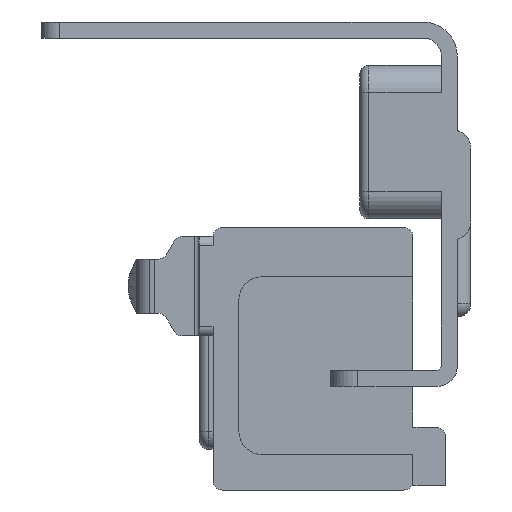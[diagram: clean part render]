
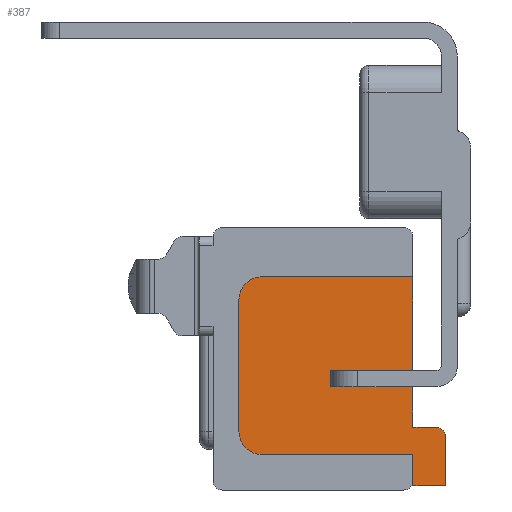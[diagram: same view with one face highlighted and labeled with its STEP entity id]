
A CAD part, left-side view. The second image highlights one B-rep face of the part: STEP entity #387.
In plain terms, the highlighted planar face has unit normal (-1, 0, 0).
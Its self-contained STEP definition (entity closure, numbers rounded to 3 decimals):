
#11 = CIRCLE ( 'NONE', #6969, 2.5 ) ;
#29 = EDGE_CURVE ( 'NONE', #3006, #235, #2060, .T. ) ;
#36 = VERTEX_POINT ( 'NONE', #1091 ) ;
#62 = CARTESIAN_POINT ( 'NONE',  ( -14.3, 4.9, -4.495 ) ) ;
#105 = VECTOR ( 'NONE', #2808, 1000. ) ;
#109 = ORIENTED_EDGE ( 'NONE', *, *, #875, .T. ) ;
#118 = VECTOR ( 'NONE', #5104, 1000. ) ;
#119 = CARTESIAN_POINT ( 'NONE',  ( -14.3, 4.9, -7.495 ) ) ;
#129 = CARTESIAN_POINT ( 'NONE',  ( -14.3, 4.9, -10.965 ) ) ;
#163 = LINE ( 'NONE', #129, #4337 ) ;
#177 = CARTESIAN_POINT ( 'NONE',  ( -14.3, 21.63, 9.635 ) ) ;
#235 = VERTEX_POINT ( 'NONE', #4454 ) ;
#265 = LINE ( 'NONE', #2714, #105 ) ;
#321 = CARTESIAN_POINT ( 'NONE',  ( -14.3, 14., 0. ) ) ;
#387 = ADVANCED_FACE ( 'NONE', ( #1247 ), #4284, .F. ) ;
#484 = DIRECTION ( 'NONE',  ( 1., 0., 0. ) ) ;
#487 = DIRECTION ( 'NONE',  ( 0., 0., -1. ) ) ;
#489 = EDGE_CURVE ( 'NONE', #1531, #6302, #11, .T. ) ;
#503 = DIRECTION ( 'NONE',  ( 0., 0., -1. ) ) ;
#719 = LINE ( 'NONE', #4909, #2018 ) ;
#856 = CARTESIAN_POINT ( 'NONE',  ( -14.3, 1.33, -4.495 ) ) ;
#875 = EDGE_CURVE ( 'NONE', #3006, #4551, #6411, .T. ) ;
#1014 = DIRECTION ( 'NONE',  ( 0., 1., 0. ) ) ;
#1091 = CARTESIAN_POINT ( 'NONE',  ( -14.3, 24.13, -4.995 ) ) ;
#1140 = CARTESIAN_POINT ( 'NONE',  ( -14.3, 21.53, 3.435 ) ) ;
#1247 = FACE_OUTER_BOUND ( 'NONE', #4204, .T. ) ;
#1509 = VECTOR ( 'NONE', #487, 1000. ) ;
#1531 = VERTEX_POINT ( 'NONE', #2185 ) ;
#1684 = LINE ( 'NONE', #6363, #1509 ) ;
#1734 = VERTEX_POINT ( 'NONE', #4535 ) ;
#1764 = VECTOR ( 'NONE', #1014, 1000. ) ;
#1772 = EDGE_CURVE ( 'NONE', #5229, #4900, #163, .T. ) ;
#1884 = VECTOR ( 'NONE', #1913, 1000. ) ;
#1893 = EDGE_CURVE ( 'NONE', #5659, #1734, #3836, .T. ) ;
#1913 = DIRECTION ( 'NONE',  ( 0., 0., -1. ) ) ;
#1987 = EDGE_CURVE ( 'NONE', #3371, #3699, #1684, .T. ) ;
#2018 = VECTOR ( 'NONE', #4414, 1000. ) ;
#2025 = CARTESIAN_POINT ( 'NONE',  ( -14.3, 21.63, -4.995 ) ) ;
#2060 = LINE ( 'NONE', #856, #1884 ) ;
#2150 = LINE ( 'NONE', #3532, #3594 ) ;
#2185 = CARTESIAN_POINT ( 'NONE',  ( -14.3, 24.13, 9.635 ) ) ;
#2199 = LINE ( 'NONE', #5781, #4748 ) ;
#2274 = EDGE_CURVE ( 'NONE', #235, #4900, #2702, .T. ) ;
#2355 = AXIS2_PLACEMENT_3D ( 'NONE', #2025, #5778, #2566 ) ;
#2558 = LINE ( 'NONE', #3202, #5279 ) ;
#2566 = DIRECTION ( 'NONE',  ( 0., 0., -1. ) ) ;
#2702 = LINE ( 'NONE', #6462, #1764 ) ;
#2714 = CARTESIAN_POINT ( 'NONE',  ( -14.3, 21.53, 12.135 ) ) ;
#2808 = DIRECTION ( 'NONE',  ( 0., -1., 0. ) ) ;
#3006 = VERTEX_POINT ( 'NONE', #5085 ) ;
#3202 = CARTESIAN_POINT ( 'NONE',  ( -14.3, 4.9, -7.495 ) ) ;
#3370 = DIRECTION ( 'NONE',  ( 0., 0., 1. ) ) ;
#3371 = VERTEX_POINT ( 'NONE', #5882 ) ;
#3438 = EDGE_CURVE ( 'NONE', #6302, #3729, #265, .T. ) ;
#3467 = VECTOR ( 'NONE', #6876, 1000. ) ;
#3484 = ORIENTED_EDGE ( 'NONE', *, *, #1772, .T. ) ;
#3495 = CARTESIAN_POINT ( 'NONE',  ( -14.3, 14., 1.77 ) ) ;
#3532 = CARTESIAN_POINT ( 'NONE',  ( -14.3, 24.13, 9.635 ) ) ;
#3541 = CIRCLE ( 'NONE', #2355, 2.5 ) ;
#3557 = EDGE_CURVE ( 'NONE', #36, #1531, #2150, .T. ) ;
#3594 = VECTOR ( 'NONE', #3370, 1000. ) ;
#3645 = CARTESIAN_POINT ( 'NONE',  ( -14.3, 21.63, -7.495 ) ) ;
#3650 = VECTOR ( 'NONE', #6881, 1000. ) ;
#3699 = VERTEX_POINT ( 'NONE', #62 ) ;
#3729 = VERTEX_POINT ( 'NONE', #6735 ) ;
#3785 = DIRECTION ( 'NONE',  ( 0., 1., 0. ) ) ;
#3836 = LINE ( 'NONE', #4771, #3650 ) ;
#3866 = EDGE_CURVE ( 'NONE', #1734, #3729, #2199, .T. ) ;
#3906 = CARTESIAN_POINT ( 'NONE',  ( -14.3, 21.63, 12.135 ) ) ;
#4079 = ORIENTED_EDGE ( 'NONE', *, *, #6932, .F. ) ;
#4138 = AXIS2_PLACEMENT_3D ( 'NONE', #1140, #4251, #4206 ) ;
#4162 = ORIENTED_EDGE ( 'NONE', *, *, #1893, .T. ) ;
#4204 = EDGE_LOOP ( 'NONE', ( #6227, #4079, #4162, #4328, #4420, #4576, #4837, #4840, #5010, #3484, #6481, #6019, #109, #5197, #4778 ) ) ;
#4206 = DIRECTION ( 'NONE',  ( 0., 0., -1. ) ) ;
#4232 = EDGE_CURVE ( 'NONE', #3371, #4865, #719, .T. ) ;
#4251 = DIRECTION ( 'NONE',  ( 1., 0., 0. ) ) ;
#4274 = VERTEX_POINT ( 'NONE', #3645 ) ;
#4284 = PLANE ( 'NONE',  #4138 ) ;
#4313 = EDGE_CURVE ( 'NONE', #3699, #4551, #5975, .T. ) ;
#4328 = ORIENTED_EDGE ( 'NONE', *, *, #3866, .T. ) ;
#4337 = VECTOR ( 'NONE', #6659, 1000. ) ;
#4414 = DIRECTION ( 'NONE',  ( 0., 1., 0. ) ) ;
#4418 = CARTESIAN_POINT ( 'NONE',  ( -14.3, 2.33, -4.495 ) ) ;
#4420 = ORIENTED_EDGE ( 'NONE', *, *, #3438, .F. ) ;
#4454 = CARTESIAN_POINT ( 'NONE',  ( -14.3, 1.33, -10.965 ) ) ;
#4473 = LINE ( 'NONE', #3495, #118 ) ;
#4535 = CARTESIAN_POINT ( 'NONE',  ( -14.3, 4.9, 1.77 ) ) ;
#4551 = VERTEX_POINT ( 'NONE', #4418 ) ;
#4558 = CARTESIAN_POINT ( 'NONE',  ( -14.3, 2.33, -5.495 ) ) ;
#4576 = ORIENTED_EDGE ( 'NONE', *, *, #489, .F. ) ;
#4578 = DIRECTION ( 'NONE',  ( -1., 0., 0. ) ) ;
#4673 = CARTESIAN_POINT ( 'NONE',  ( -14.3, 14., 1.77 ) ) ;
#4717 = DIRECTION ( 'NONE',  ( 0., 0., -1. ) ) ;
#4748 = VECTOR ( 'NONE', #5428, 1000. ) ;
#4771 = CARTESIAN_POINT ( 'NONE',  ( -14.3, 12.15, 1.77 ) ) ;
#4778 = ORIENTED_EDGE ( 'NONE', *, *, #1987, .F. ) ;
#4837 = ORIENTED_EDGE ( 'NONE', *, *, #3557, .F. ) ;
#4840 = ORIENTED_EDGE ( 'NONE', *, *, #4919, .F. ) ;
#4865 = VERTEX_POINT ( 'NONE', #321 ) ;
#4900 = VERTEX_POINT ( 'NONE', #5242 ) ;
#4909 = CARTESIAN_POINT ( 'NONE',  ( -14.3, 12.42, 0. ) ) ;
#4919 = EDGE_CURVE ( 'NONE', #4274, #36, #3541, .T. ) ;
#4954 = AXIS2_PLACEMENT_3D ( 'NONE', #4558, #4578, #4717 ) ;
#5010 = ORIENTED_EDGE ( 'NONE', *, *, #5399, .F. ) ;
#5085 = CARTESIAN_POINT ( 'NONE',  ( -14.3, 1.33, -5.495 ) ) ;
#5104 = DIRECTION ( 'NONE',  ( 0., 0., -1. ) ) ;
#5197 = ORIENTED_EDGE ( 'NONE', *, *, #4313, .F. ) ;
#5229 = VERTEX_POINT ( 'NONE', #119 ) ;
#5242 = CARTESIAN_POINT ( 'NONE',  ( -14.3, 4.9, -10.965 ) ) ;
#5279 = VECTOR ( 'NONE', #3785, 1000. ) ;
#5399 = EDGE_CURVE ( 'NONE', #5229, #4274, #2558, .T. ) ;
#5428 = DIRECTION ( 'NONE',  ( 0., 0., 1. ) ) ;
#5659 = VERTEX_POINT ( 'NONE', #4673 ) ;
#5778 = DIRECTION ( 'NONE',  ( 1., 0., 0. ) ) ;
#5781 = CARTESIAN_POINT ( 'NONE',  ( -14.3, 4.9, 3.435 ) ) ;
#5882 = CARTESIAN_POINT ( 'NONE',  ( -14.3, 4.9, 0. ) ) ;
#5975 = LINE ( 'NONE', #6858, #3467 ) ;
#6019 = ORIENTED_EDGE ( 'NONE', *, *, #29, .F. ) ;
#6227 = ORIENTED_EDGE ( 'NONE', *, *, #4232, .T. ) ;
#6302 = VERTEX_POINT ( 'NONE', #3906 ) ;
#6363 = CARTESIAN_POINT ( 'NONE',  ( -14.3, 4.9, 12.135 ) ) ;
#6411 = CIRCLE ( 'NONE', #4954, 1. ) ;
#6462 = CARTESIAN_POINT ( 'NONE',  ( -14.3, 1.33, -10.965 ) ) ;
#6481 = ORIENTED_EDGE ( 'NONE', *, *, #2274, .F. ) ;
#6659 = DIRECTION ( 'NONE',  ( 0., 0., -1. ) ) ;
#6735 = CARTESIAN_POINT ( 'NONE',  ( -14.3, 4.9, 12.135 ) ) ;
#6858 = CARTESIAN_POINT ( 'NONE',  ( -14.3, 20.06, -4.495 ) ) ;
#6876 = DIRECTION ( 'NONE',  ( 0., -1., 0. ) ) ;
#6881 = DIRECTION ( 'NONE',  ( 0., -1., 0. ) ) ;
#6932 = EDGE_CURVE ( 'NONE', #5659, #4865, #4473, .T. ) ;
#6969 = AXIS2_PLACEMENT_3D ( 'NONE', #177, #484, #503 ) ;
